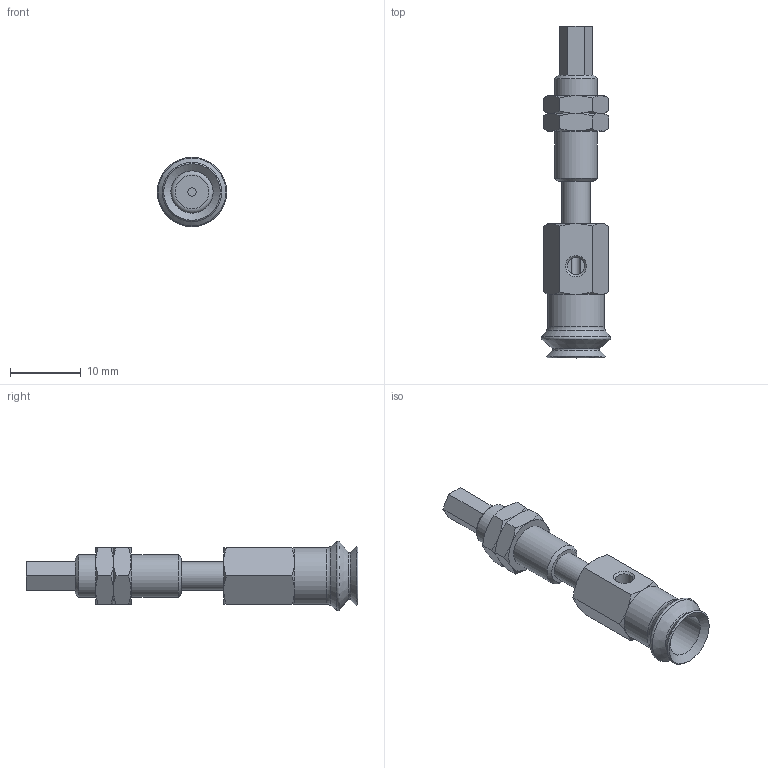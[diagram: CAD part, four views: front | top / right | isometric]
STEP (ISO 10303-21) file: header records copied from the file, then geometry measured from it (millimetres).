
FILE_DESCRIPTION(('STEP AP203'),'1');
FILE_NAME('.stp','2025-04-24T00:31:37',(' '),(' '),'Spatial InterOp 3D',' ',' ');
FILE_SCHEMA(('CONFIG_CONTROL_DESIGN'));
Length unit declared in the file: millimetre
Products named in the file (6): BNABPJYS-8-6-※; CONNECTOR_S-8-6; NUT-NAPJ-8-6-s; NAPJTS-8-6-FBODY; NAPJTS-8-6-MBODY; BPJG-8-※
Assembly tree (6 placements, depth 2):
  BNABPJYS-8-6-※
    CONNECTOR_S-8-6
    NUT-NAPJ-8-6-s  x2
    NAPJTS-8-6-FBODY
    NAPJTS-8-6-MBODY
    BPJG-8-※
Bounding box: 9.8 x 47 x 9.8 mm (x, y, z)
Volume: 1567.6 mm3; surface area: 2379.8 mm2
Topology: 6 solids, 6 shells, 129 faces, 275 edges, 163 vertices
Faces by surface type: plane 55, cone 53, cylinder 14, torus 7
Full cylindrical faces by diameter (mm): 1.2 x1, 2.459 x2, 3 x1, 4 x4, 5.188 x2, 6 x3, 8 x1
Entity records: 3130 total; most frequent: CARTESIAN_POINT 747, DIRECTION 436, ORIENTED_EDGE 374, AXIS2_PLACEMENT_3D 190, EDGE_CURVE 187, EDGE_LOOP 154, VERTEX_POINT 129, FACE_OUTER_BOUND 126
